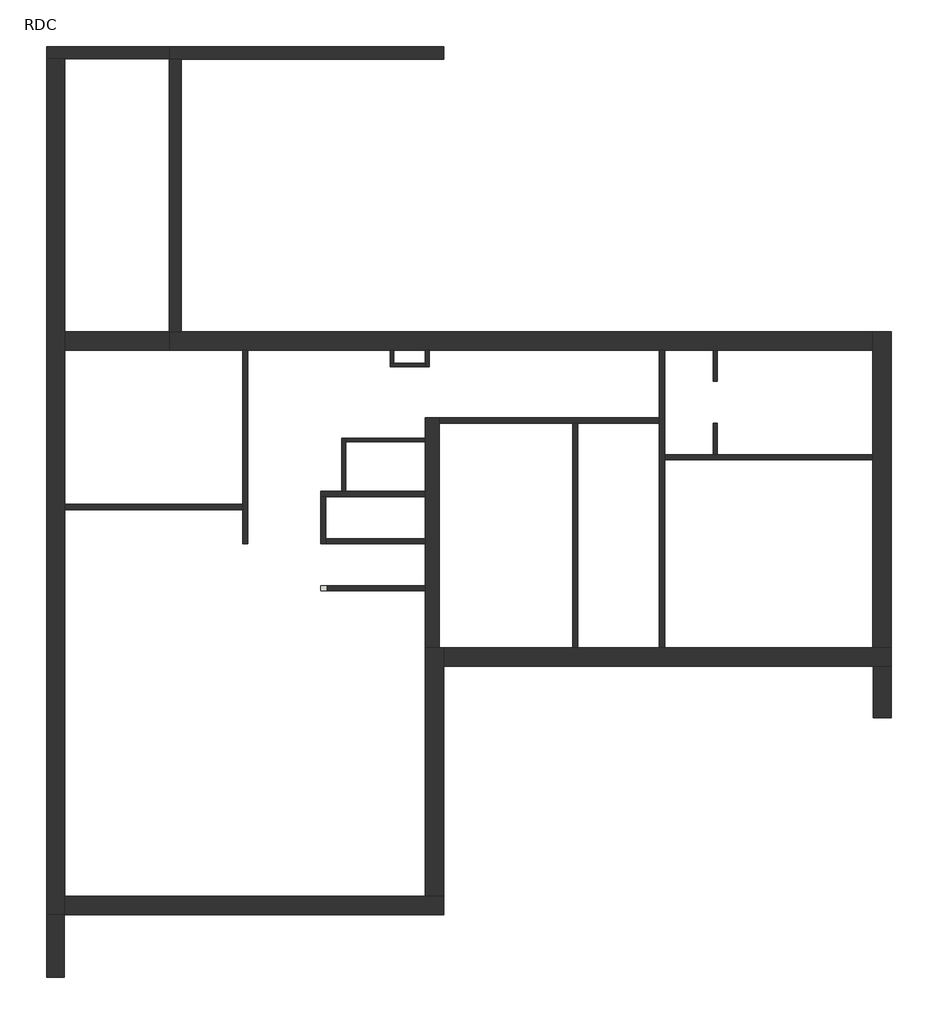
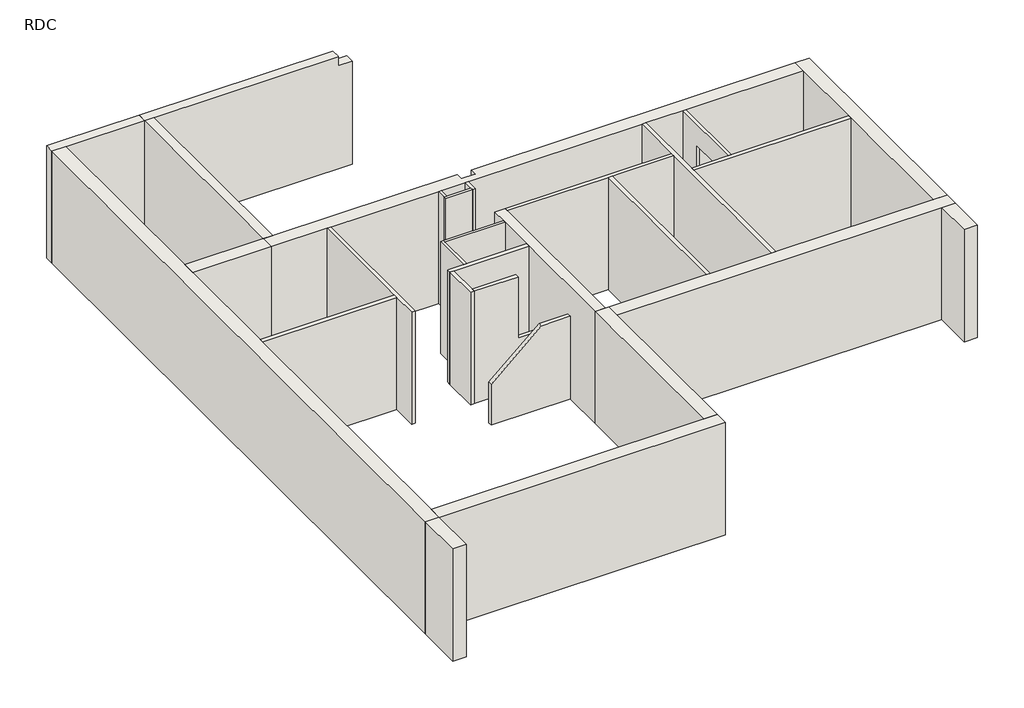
# One storey, incomplete: 29 walls.
"""IFC4 building model written with IfcOpenShell, lengths in millimetres."""

from ifc_helpers import new_model, si_unit, frame, origin, origin_with_axes, place, context, project, spatial, polyline, outline, extrude, faceted_brep, element, save

model = new_model("IFC4")

# Units and contexts
model_context = context("Model", 3, world=origin())
ifc_project = project(units=[si_unit("LENGTHUNIT", "METRE", prefix="MILLI")], contexts=[model_context])

# Site, building, storey
site = spatial("IfcSite", under=ifc_project)
building = spatial("IfcBuilding", under=site)
storey = spatial("IfcBuildingStorey", under=building, Name="RDC", Elevation=0.0)

# Walls
placement = place(None, origin())
element("IfcWall", 1, ObjectType="Ext. Bardage Métal + Isolant + Béton + Finition", at=placement, inside=storey, context=model_context, shape_type="Brep", body=[
    faceted_brep([(-7956.697342, 7624.9574199, 0.0), (-7956.697342, -8735.0425801, 0.0), (-7956.697342, -8735.0425801, 3000.0), (-7956.697342, 7624.9574199, 3000.0), (-7606.697342, 7624.9574199, 0.0), (-7606.697342, 7624.9574199, 3000.0), (-7606.697342, 2404.9574199, 3000.0), (-7606.697342, 2054.9574199, 3000.0), (-7606.697342, -895.1038978, 3000.0), (-7606.697342, -995.1038978, 3000.0), (-7606.697342, -8385.0425801, 3000.0), (-7606.697342, -8735.0425801, 3000.0), (-7606.697342, -8735.0425801, 0.0), (-7606.697342, -8385.0425801, 0.0), (-7606.697342, -995.1038978, 0.0), (-7606.697342, -895.1038978, 0.0), (-7606.697342, 2054.9574199, 0.0), (-7606.697342, 2404.9574199, 0.0), (-7616.697342, -8735.0425801, 0.0), (-7616.697342, -8735.0425801, 3000.0)], [[[0, 1, 2, 3]], [[4, 5, 6, 7, 8, 9, 10, 11, 12, 13, 14, 15, 16, 17]], [[1, 0, 4, 17, 16, 15, 14, 13, 12, 18]], [[3, 2, 19, 11, 10, 9, 8, 7, 6, 5]], [[0, 3, 5, 4]], [[2, 1, 18, 12, 11, 19]]]),
])
element("IfcWall", 2, ObjectType="Ext. Bardage Bois + Isolant + Béton + Finition", at=placement, inside=storey, context=model_context, shape_type="Brep", body=[
    faceted_brep([(-7606.697342, -8735.0425801, 0.0), (-366.697342, -8735.0425801, 0.0), (-366.697342, -8735.0425801, 3000.0), (-7606.697342, -8735.0425801, 3000.0), (-7606.697342, -8385.0425801, 0.0), (-7606.697342, -8385.0425801, 3000.0), (-716.697342, -8385.0425801, 3000.0), (-366.697342, -8385.0425801, 3000.0), (-366.697342, -8385.0425801, 0.0), (-716.697342, -8385.0425801, 0.0)], [[[0, 1, 2, 3]], [[4, 5, 6, 7, 8, 9]], [[1, 0, 4, 9, 8]], [[3, 2, 7, 6, 5]], [[2, 1, 8, 7]], [[0, 3, 5, 4]]]),
])
element("IfcWall", 3, ObjectType="Ext. Bardage Bois + Isolant + Béton + Finition", at=placement, inside=storey, context=model_context, shape_type="Brep", body=[
    faceted_brep([(-366.697342, -8385.0425801, 0.0), (-366.697342, -3985.0425801, 0.0), (-366.697342, -3635.0425801, 0.0), (-366.697342, -3635.0425801, 3000.0), (-366.697342, -3985.0425801, 3000.0), (-366.697342, -8385.0425801, 3000.0), (-716.697342, -8385.0425801, 0.0), (-716.697342, -8385.0425801, 3000.0), (-716.697342, -3635.0425801, 3000.0), (-716.697342, -3635.0425801, 0.0), (-456.697342, -3635.0425801, 0.0), (-456.697342, -3635.0425801, 3000.0)], [[[0, 1, 2, 3, 4, 5]], [[6, 7, 8, 9]], [[2, 1, 0, 6, 9, 10]], [[5, 4, 3, 11, 8, 7]], [[0, 5, 7, 6]], [[3, 2, 10, 9, 8, 11]]]),
])
element("IfcWall", 4, ObjectType="Ext. Bardage Métal + Isolant + Béton + Finition", at=placement, inside=storey, context=model_context, shape_type="Brep", body=[
    faceted_brep([(-366.697342, -3985.0425801, 0.0), (7843.302658, -3985.0425801, 0.0), (8183.302658, -3985.0425801, 0.0), (8183.302658, -3985.0425801, 3000.0), (7843.302658, -3985.0425801, 3000.0), (-366.697342, -3985.0425801, 3000.0), (-366.697342, -3635.0425801, 0.0), (-366.697342, -3635.0425801, 3000.0), (2094.302658, -3635.0425801, 3000.0), (2194.302658, -3635.0425801, 3000.0), (3754.302658, -3635.0425801, 3000.0), (3854.302658, -3635.0425801, 3000.0), (7833.302658, -3635.0425801, 3000.0), (8183.302658, -3635.0425801, 3000.0), (8183.302658, -3635.0425801, 0.0), (7833.302658, -3635.0425801, 0.0), (3854.302658, -3635.0425801, 0.0), (3754.302658, -3635.0425801, 0.0), (2194.302658, -3635.0425801, 0.0), (2094.302658, -3635.0425801, 0.0)], [[[0, 1, 2, 3, 4, 5]], [[6, 7, 8, 9, 10, 11, 12, 13, 14, 15, 16, 17, 18, 19]], [[2, 1, 0, 6, 19, 18, 17, 16, 15, 14]], [[5, 4, 3, 13, 12, 11, 10, 9, 8, 7]], [[0, 5, 7, 6]], [[3, 2, 14, 13]]]),
])
element("IfcWall", 5, ObjectType="Ext. Bardage Bois + Isolant + Béton + Finition", at=placement, inside=storey, context=model_context, shape_type="Brep", body=[
    faceted_brep([(8183.302658, -3635.0425801, 0.0), (8183.302658, 2404.9574199, 0.0), (8183.302658, 2404.9574199, 3000.0), (8183.302658, -3635.0425801, 3000.0), (7833.302658, -3635.0425801, 0.0), (7833.302658, -3635.0425801, 3000.0), (7833.302658, -40.1038978, 3000.0), (7833.302658, 59.8961022, 3000.0), (7833.302658, 2054.9574199, 3000.0), (7833.302658, 2404.9574199, 3000.0), (7833.302658, 2404.9574199, 0.0), (7833.302658, 2054.9574199, 0.0), (7833.302658, 59.8961022, 0.0), (7833.302658, -40.1038978, 0.0)], [[[0, 1, 2, 3]], [[4, 5, 6, 7, 8, 9, 10, 11, 12, 13]], [[1, 0, 4, 13, 12, 11, 10]], [[3, 2, 9, 8, 7, 6, 5]], [[0, 3, 5, 4]], [[2, 1, 10, 9]]]),
])
element("IfcWall", 6, ObjectType="Ext. Bardage Bois + Isolant + Béton + Finition", at=placement, inside=storey, context=model_context, shape_type="Brep", body=[
    faceted_brep([(7833.302658, 2404.9574199, 0.0), (-5386.5193778, 2404.9574199, 0.0), (-5616.5193778, 2404.9574199, 0.0), (-5616.5193778, 2404.9574199, 3000.0), (-5386.5193778, 2404.9574199, 3000.0), (-716.697342, 2404.9574199, 3000.0), (-716.697342, 2404.9574199, 2750.0), (-366.697342, 2404.9574199, 2750.0), (-366.697342, 2404.9574199, 3000.0), (7833.302658, 2404.9574199, 3000.0), (-5616.5193778, 2054.9574199, 0.0), (-4211.697342, 2054.9574199, 0.0), (-4111.697342, 2054.9574199, 0.0), (-1392.697342, 2054.9574199, 0.0), (-1320.697342, 2054.9574199, 0.0), (-716.697342, 2054.9574199, 0.0), (-644.697342, 2054.9574199, 0.0), (3754.302658, 2054.9574199, 0.0), (3854.302658, 2054.9574199, 0.0), (4784.302658, 2054.9574199, 0.0), (4856.302658, 2054.9574199, 0.0), (7833.302658, 2054.9574199, 0.0), (7833.302658, 2054.9574199, 3000.0), (4856.302658, 2054.9574199, 3000.0), (4784.302658, 2054.9574199, 3000.0), (3854.302658, 2054.9574199, 3000.0), (3754.302658, 2054.9574199, 3000.0), (-644.697342, 2054.9574199, 3000.0), (-716.697342, 2054.9574199, 3000.0), (-1320.697342, 2054.9574199, 3000.0), (-1392.697342, 2054.9574199, 3000.0), (-4111.697342, 2054.9574199, 3000.0), (-4211.697342, 2054.9574199, 3000.0), (-5616.5193778, 2054.9574199, 3000.0), (-366.697342, 2229.9574199, 3000.0), (-716.697342, 2229.9574199, 3000.0), (-366.697342, 2229.9574199, 2750.0), (-716.697342, 2229.9574199, 2750.0)], [[[0, 1, 2, 3, 4, 5, 6, 7, 8, 9]], [[10, 11, 12, 13, 14, 15, 16, 17, 18, 19, 20, 21, 22, 23, 24, 25, 26, 27, 28, 29, 30, 31, 32, 33]], [[2, 1, 0, 21, 20, 19, 18, 17, 16, 15, 14, 13, 12, 11, 10]], [[33, 32, 31, 30, 29, 28, 27, 26, 25, 24, 23, 22, 9, 8, 34, 35, 5, 4, 3]], [[0, 9, 22, 21]], [[3, 2, 10, 33]], [[36, 34, 8, 7]], [[37, 6, 5, 35]], [[37, 36, 7, 6]], [[36, 37, 35, 34]]]),
])
element("IfcWall", 7, ObjectType="Int. Plâtre 100 mm", at=placement, inside=storey, context=model_context, shape_type="SweptSolid", body=[
    extrude(outline(polyline([(-4211.697342, -995.1038978), (-7606.697342, -995.1038978), (-7606.697342, -895.1038978), (-4211.697342, -895.1038978), (-4211.697342, -995.1038978)])), origin_with_axes(), (0.0, 0.0, 1.0), 3000.0),
])
element("IfcWall", 8, ObjectType="Int. Plâtre 100 mm", at=placement, inside=storey, context=model_context, shape_type="Brep", body=[
    faceted_brep([(-4111.697342, -1645.1038978, 0.0), (-4111.697342, 2054.9574199, 0.0), (-4111.697342, 2054.9574199, 3000.0), (-4111.697342, -1645.1038978, 3000.0), (-4211.697342, -1645.1038978, 0.0), (-4211.697342, -1645.1038978, 3000.0), (-4211.697342, -995.1038978, 3000.0), (-4211.697342, -895.1038978, 3000.0), (-4211.697342, 2054.9574199, 3000.0), (-4211.697342, 2054.9574199, 0.0), (-4211.697342, -895.1038978, 0.0), (-4211.697342, -995.1038978, 0.0)], [[[0, 1, 2, 3]], [[4, 5, 6, 7, 8, 9, 10, 11]], [[1, 0, 4, 11, 10, 9]], [[3, 2, 8, 7, 6, 5]], [[0, 3, 5, 4]], [[2, 1, 9, 8]]]),
])
element("IfcWall", 9, ObjectType="Int. Plâtre 100 mm", at=placement, inside=storey, context=model_context, shape_type="Brep", body=[
    faceted_brep([(-716.697342, -645.1038978, 0.0), (-2241.697342, -645.1038978, 0.0), (-2313.697342, -645.1038978, 0.0), (-2719.1256089, -645.1038978, 0.0), (-2719.1256089, -645.1038978, 3000.0), (-2697.3224934, -645.1038978, 3000.0), (-2313.697342, -645.1038978, 3000.0), (-2241.697342, -645.1038978, 3000.0), (-716.697342, -645.1038978, 3000.0), (-716.697342, -745.1038978, 0.0), (-716.697342, -745.1038978, 3000.0), (-2619.1256089, -745.1038978, 3000.0), (-2697.3224934, -745.1038978, 3000.0), (-2719.1256089, -745.1038978, 3000.0), (-2719.1256089, -745.1038978, 0.0), (-2619.1256089, -745.1038978, 0.0)], [[[0, 1, 2, 3, 4, 5, 6, 7, 8]], [[9, 10, 11, 12, 13, 14, 15]], [[3, 2, 1, 0, 9, 15, 14]], [[8, 7, 6, 5, 4, 13, 12, 11, 10]], [[4, 3, 14, 13]], [[0, 8, 10, 9]]]),
])
element("IfcWall", 10, ObjectType="Int. Plâtre 100 mm", at=placement, inside=storey, context=model_context, shape_type="Brep", body=[
    faceted_brep([(-2719.1256089, -745.1038978, 0.0), (-2719.1256089, -1645.1038978, 0.0), (-2719.1256089, -1645.1038978, 3000.0), (-2719.1256089, -745.1038978, 3000.0), (-2619.1256089, -745.1038978, 0.0), (-2619.1256089, -745.1038978, 3000.0), (-2619.1256089, -1545.1038978, 3000.0), (-2619.1256089, -1645.1038978, 3000.0), (-2619.1256089, -1645.1038978, 0.0), (-2619.1256089, -1545.1038978, 0.0)], [[[0, 1, 2, 3]], [[4, 5, 6, 7, 8, 9]], [[1, 0, 4, 9, 8]], [[3, 2, 7, 6, 5]], [[0, 3, 5, 4]], [[2, 1, 8, 7]]]),
])
element("IfcWall", 11, ObjectType="Int. Plâtre 100 mm", at=placement, inside=storey, context=model_context, shape_type="SweptSolid", body=[
    extrude(outline(polyline([(0.0, -2619.1256089), (0.0, -716.697342), (1360.0, -716.697342), (1360.0, -1515.8753062), (3000.0, -1515.8753062), (3000.0, -2619.1256089), (0.0, -2619.1256089)])), frame((0.0, -1645.1038978, 0.0), z_axis=(0.0, 1.0, 0.0), x_axis=(0.0, 0.0, 1.0)), (0.0, 0.0, 1.0), 100.0),
])
element("IfcWall", 12, ObjectType="Int. Plâtre 100 mm", at=placement, inside=storey, context=model_context, shape_type="Brep", body=[
    faceted_brep([(-456.697342, 657.8961022, 0.0), (2094.302658, 657.8961022, 0.0), (2194.302658, 657.8961022, 0.0), (3754.302658, 657.8961022, 0.0), (3754.302658, 657.8961022, 3000.0), (2194.302658, 657.8961022, 3000.0), (2094.302658, 657.8961022, 3000.0), (-456.697342, 657.8961022, 3000.0), (-456.697342, 757.8961022, 0.0), (-456.697342, 757.8961022, 3000.0), (3754.302658, 757.8961022, 3000.0), (3754.302658, 757.8961022, 0.0)], [[[0, 1, 2, 3, 4, 5, 6, 7]], [[8, 9, 10, 11]], [[3, 2, 1, 0, 8, 11]], [[7, 6, 5, 4, 10, 9]], [[4, 3, 11, 10]], [[0, 7, 9, 8]]]),
])
element("IfcWall", 13, ObjectType="Int. Plâtre 100 mm", at=placement, inside=storey, context=model_context, shape_type="Brep", body=[
    faceted_brep([(3754.302658, 2054.9574199, 0.0), (3754.302658, 757.8961022, 0.0), (3754.302658, 657.8961022, 0.0), (3754.302658, -3635.0425801, 0.0), (3754.302658, -3635.0425801, 35.0), (3754.302658, -3635.0425801, 2485.0), (3754.302658, -3635.0425801, 3000.0), (3754.302658, 657.8961022, 3000.0), (3754.302658, 757.8961022, 3000.0), (3754.302658, 2054.9574199, 3000.0), (3854.302658, 2054.9574199, 0.0), (3854.302658, 2054.9574199, 3000.0), (3854.302658, 59.8961022, 3000.0), (3854.302658, -40.1038978, 3000.0), (3854.302658, -3635.0425801, 3000.0), (3854.302658, -3635.0425801, 0.0), (3854.302658, -40.1038978, 0.0), (3854.302658, 59.8961022, 0.0)], [[[0, 1, 2, 3, 4, 5, 6, 7, 8, 9]], [[10, 11, 12, 13, 14, 15, 16, 17]], [[3, 2, 1, 0, 10, 17, 16, 15]], [[9, 8, 7, 6, 14, 13, 12, 11]], [[6, 5, 4, 3, 15, 14]], [[0, 9, 11, 10]]]),
])
element("IfcWall", 14, ObjectType="Int. Plâtre 100 mm", at=placement, inside=storey, context=model_context, shape_type="Brep", body=[
    faceted_brep([(7833.302658, 59.8961022, 0.0), (4856.302658, 59.8961022, 0.0), (4784.302658, 59.8961022, 0.0), (3854.302658, 59.8961022, 0.0), (3854.302658, 59.8961022, 3000.0), (4784.302658, 59.8961022, 3000.0), (4856.302658, 59.8961022, 3000.0), (7833.302658, 59.8961022, 3000.0), (7833.302658, -40.1038978, 0.0), (7833.302658, -40.1038978, 3000.0), (3854.302658, -40.1038978, 3000.0), (3854.302658, -40.1038978, 0.0)], [[[0, 1, 2, 3, 4, 5, 6, 7]], [[8, 9, 10, 11]], [[3, 2, 1, 0, 8, 11]], [[7, 6, 5, 4, 10, 9]], [[0, 7, 9, 8]], [[4, 3, 11, 10]]]),
])
element("IfcWall", 15, ObjectType="Int. Plâtre 100 mm", at=placement, inside=storey, context=model_context, shape_type="SweptSolid", body=[
    extrude(outline(polyline([(2094.302658, -3635.0425801), (2094.302658, 657.8961022), (2194.302658, 657.8961022), (2194.302658, -3635.0425801), (2094.302658, -3635.0425801)])), origin_with_axes(), (0.0, 0.0, 1.0), 3000.0),
])
element("IfcWall", 16, ObjectType="Int. Plâtre 70 mm", at=placement, inside=storey, context=model_context, shape_type="Brep", body=[
    faceted_brep([(-2241.697342, -645.1038978, 0.0), (-2241.697342, 299.8961022, 0.0), (-2241.697342, 371.8961022, 0.0), (-2241.697342, 371.8961022, 3000.0), (-2241.697342, 299.8961022, 3000.0), (-2241.697342, -645.1038978, 3000.0), (-2313.697342, -645.1038978, 0.0), (-2313.697342, -645.1038978, 3000.0), (-2313.697342, 371.8961022, 3000.0), (-2313.697342, 371.8961022, 0.0)], [[[0, 1, 2, 3, 4, 5]], [[6, 7, 8, 9]], [[2, 1, 0, 6, 9]], [[5, 4, 3, 8, 7]], [[0, 5, 7, 6]], [[3, 2, 9, 8]]]),
])
element("IfcWall", 17, ObjectType="Int. Plâtre 70 mm", at=placement, inside=storey, context=model_context, shape_type="SweptSolid", body=[
    extrude(outline(polyline([(-716.697342, 299.8961022), (-2241.697342, 299.8961022), (-2241.697342, 371.8961022), (-716.697342, 371.8961022), (-716.697342, 299.8961022)])), origin_with_axes(), (0.0, 0.0, 1.0), 3000.0),
])
element("IfcWall", 18, ObjectType="Int. Plâtre 70 mm", at=placement, inside=storey, context=model_context, shape_type="SweptSolid", body=[
    extrude(outline(polyline([(59.8961022, 0.0), (59.8961022, 3000.0), (2054.9574199, 3000.0), (2054.9574199, 0.0), (1463.4416882, 0.0), (1463.4416882, 2438.4), (659.8961022, 2438.4), (659.8961022, 0.0), (59.8961022, 0.0)])), frame((4784.302658, 0.0, 0.0), z_axis=(1.0, 0.0, 0.0), x_axis=(0.0, 1.0, 0.0)), (0.0, 0.0, 1.0), 72.0),
])
element("IfcWall", 19, ObjectType="Int. Béton + Finition", at=placement, inside=storey, context=model_context, shape_type="Brep", body=[
    faceted_brep([(-716.697342, 757.8961022, 0.0), (-716.697342, 371.8961022, 0.0), (-716.697342, 299.8961022, 0.0), (-716.697342, -645.1038978, 0.0), (-716.697342, -745.1038978, 0.0), (-716.697342, -1545.1038978, 0.0), (-716.697342, -1645.1038978, 0.0), (-716.697342, -2445.1038978, 0.0), (-716.697342, -2545.1038978, 0.0), (-716.697342, -3635.0425801, 0.0), (-716.697342, -3635.0425801, 3000.0), (-716.697342, -745.1038978, 3000.0), (-716.697342, -645.1038978, 3000.0), (-716.697342, 299.8961022, 3000.0), (-716.697342, 371.8961022, 3000.0), (-716.697342, 757.8961022, 3000.0), (-456.697342, 757.8961022, 0.0), (-456.697342, 757.8961022, 3000.0), (-456.697342, 657.8961022, 3000.0), (-456.697342, -3635.0425801, 3000.0), (-456.697342, -3635.0425801, 0.0), (-456.697342, 657.8961022, 0.0)], [[[0, 1, 2, 3, 4, 5, 6, 7, 8, 9, 10, 11, 12, 13, 14, 15]], [[16, 17, 18, 19, 20, 21]], [[9, 8, 7, 6, 5, 4, 3, 2, 1, 0, 16, 21, 20]], [[15, 14, 13, 12, 11, 10, 19, 18, 17]], [[0, 15, 17, 16]], [[10, 9, 20, 19]]]),
])
element("IfcWall", 20, ObjectType="Int. Plâtre 70 mm", at=placement, inside=storey, context=model_context, shape_type="Brep", body=[
    faceted_brep([(-716.697342, 2054.9574199, 0.0), (-716.697342, 1807.8961022, 0.0), (-716.697342, 1735.8961022, 0.0), (-716.697342, 1735.8961022, 3000.0), (-716.697342, 1807.8961022, 3000.0), (-716.697342, 2054.9574199, 3000.0), (-644.697342, 2054.9574199, 0.0), (-644.697342, 2054.9574199, 3000.0), (-644.697342, 1735.8961022, 3000.0), (-644.697342, 1735.8961022, 0.0)], [[[0, 1, 2, 3, 4, 5]], [[6, 7, 8, 9]], [[2, 1, 0, 6, 9]], [[5, 4, 3, 8, 7]], [[0, 5, 7, 6]], [[3, 2, 9, 8]]]),
])
element("IfcWall", 21, ObjectType="Int. Plâtre 70 mm", at=placement, inside=storey, context=model_context, shape_type="Brep", body=[
    faceted_brep([(-716.697342, 1807.8961022, 0.0), (-1320.697342, 1807.8961022, 0.0), (-1392.697342, 1807.8961022, 0.0), (-1392.697342, 1807.8961022, 3000.0), (-1320.697342, 1807.8961022, 3000.0), (-716.697342, 1807.8961022, 3000.0), (-716.697342, 1735.8961022, 0.0), (-716.697342, 1735.8961022, 3000.0), (-1392.697342, 1735.8961022, 3000.0), (-1392.697342, 1735.8961022, 0.0)], [[[0, 1, 2, 3, 4, 5]], [[6, 7, 8, 9]], [[2, 1, 0, 6, 9]], [[5, 4, 3, 8, 7]], [[0, 5, 7, 6]], [[3, 2, 9, 8]]]),
])
element("IfcWall", 22, ObjectType="Int. Plâtre 70 mm", at=placement, inside=storey, context=model_context, shape_type="SweptSolid", body=[
    extrude(outline(polyline([(-1320.697342, 2054.9574199), (-1320.697342, 1807.8961022), (-1392.697342, 1807.8961022), (-1392.697342, 2054.9574199), (-1320.697342, 2054.9574199)])), origin_with_axes(), (0.0, 0.0, 1.0), 3000.0),
])
element("IfcWall", 23, ObjectType="Ext. Bardage Métal + Béton + Finition", at=placement, inside=storey, context=model_context, shape_type="SweptSolid", body=[
    extrude(outline(polyline([(-5616.5193778, 2404.9574199), (-5616.5193778, 7614.9574199), (-5386.5193778, 7614.9574199), (-5386.5193778, 2404.9574199), (-5616.5193778, 2404.9574199)])), origin_with_axes(), (0.0, 0.0, 1.0), 3000.0),
])
element("IfcWall", 24, ObjectType="Ext. Bardage Bois +  Béton + Bardage Métal", at=placement, inside=storey, context=model_context, shape_type="Brep", body=[
    faceted_brep([(-5616.5193778, 7614.9574199, 0.0), (-5386.5193778, 7614.9574199, 0.0), (-366.697342, 7614.9574199, 0.0), (-366.697342, 7614.9574199, 2750.0), (-716.697342, 7614.9574199, 2750.0), (-716.697342, 7614.9574199, 3000.0), (-5386.5193778, 7614.9574199, 3000.0), (-5616.5193778, 7614.9574199, 3000.0), (-366.697342, 7854.9574199, 0.0), (-5616.5193778, 7854.9574199, 0.0), (-5616.5193778, 7854.9574199, 3000.0), (-716.697342, 7854.9574199, 3000.0), (-716.697342, 7854.9574199, 2750.0), (-366.697342, 7854.9574199, 2750.0), (-5616.5193778, 7624.9574199, 0.0), (-5616.5193778, 7624.9574199, 3000.0), (-716.697342, 7624.9574199, 3000.0)], [[[0, 1, 2, 3, 4, 5, 6, 7]], [[8, 9, 10, 11, 12, 13]], [[2, 1, 0, 14, 9, 8]], [[2, 8, 13, 3]], [[10, 15, 7, 6, 5, 16, 11]], [[0, 7, 15, 10, 9, 14]], [[4, 12, 11, 16, 5]], [[12, 4, 3, 13]]]),
])
element("IfcWall", 25, ObjectType="Int. Plâtre 100 mm", at=placement, inside=storey, context=model_context, shape_type="SweptSolid", body=[
    extrude(outline(polyline([(0.0, -716.697342), (2212.5, -716.697342), (2212.5, -1446.8453117), (1087.5, -2719.1256089), (0.0, -2719.1256089), (0.0, -716.697342)])), frame((0.0, -2545.1038978, 0.0), z_axis=(0.0, 1.0, 0.0), x_axis=(0.0, 0.0, 1.0)), (0.0, 0.0, 1.0), 100.0),
])
element("IfcWall", 26, ObjectType="Ext. Bardage Bois + Béton + Finition", at=placement, inside=storey, context=model_context, shape_type="Brep", body=[
    faceted_brep([(-7956.697342, 7624.9574199, 0.0), (-7606.697342, 7624.9574199, 0.0), (-5616.5193778, 7624.9574199, 0.0), (-5616.5193778, 7624.9574199, 3000.0), (-7606.697342, 7624.9574199, 3000.0), (-7956.697342, 7624.9574199, 3000.0), (-7956.697342, 7854.9574199, 0.0), (-7956.697342, 7854.9574199, 3000.0), (-7606.697342, 7854.9574199, 3000.0), (-5616.5193778, 7854.9574199, 3000.0), (-5616.5193778, 7854.9574199, 0.0)], [[[0, 1, 2, 3, 4, 5]], [[6, 7, 8, 9, 10]], [[2, 1, 0, 6, 10]], [[5, 4, 3, 9, 8, 7]], [[0, 5, 7, 6]], [[3, 2, 10, 9]]]),
])
element("IfcWall", 27, ObjectType="Ext. Bardage Métal + Isolant + Béton + Bardage Bois", at=placement, inside=storey, context=model_context, shape_type="SweptSolid", body=[
    extrude(outline(polyline([(-7956.697342, -9932.1038978), (-7956.697342, -8735.0425801), (-7616.697342, -8735.0425801), (-7616.697342, -9932.1038978), (-7956.697342, -9932.1038978)])), origin_with_axes(), (0.0, 0.0, 1.0), 3000.0),
])
element("IfcWall", 28, ObjectType="Ext. Bardage Bois + Isolant + Béton + Bardage Métal", at=placement, inside=storey, context=model_context, shape_type="SweptSolid", body=[
    extrude(outline(polyline([(7843.302658, -4967.1038978), (7843.302658, -3985.0425801), (8183.302658, -3985.0425801), (8183.302658, -4967.1038978), (7843.302658, -4967.1038978)])), origin_with_axes(), (0.0, 0.0, 1.0), 3000.0),
])
element("IfcWall", 29, ObjectType="Int. Finition + Isolant + Béton + Finition", at=placement, inside=storey, context=model_context, shape_type="SweptSolid", body=[
    extrude(outline(polyline([(-7606.697342, 2404.9574199), (-5616.5193778, 2404.9574199), (-5616.5193778, 2054.9574199), (-7606.697342, 2054.9574199), (-7606.697342, 2404.9574199)])), origin_with_axes(), (0.0, 0.0, 1.0), 3000.0),
])

save(model, "model.ifc")
